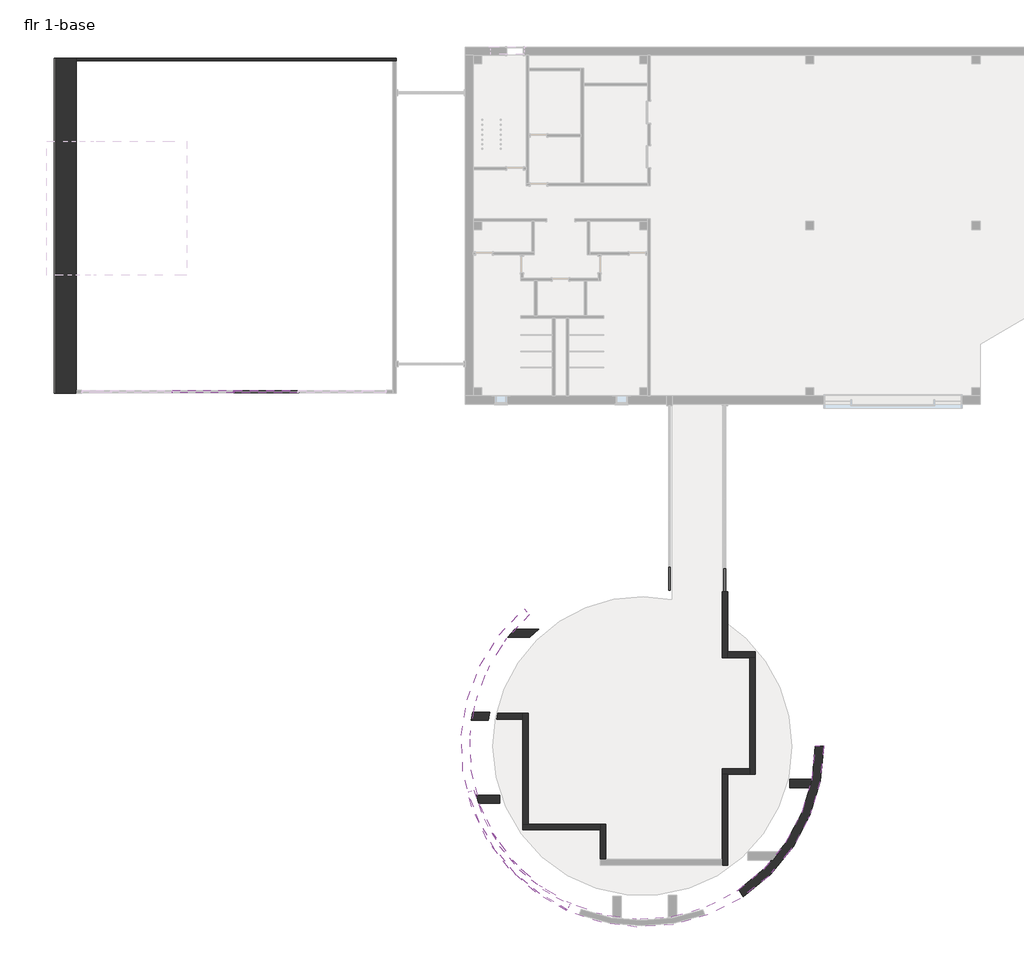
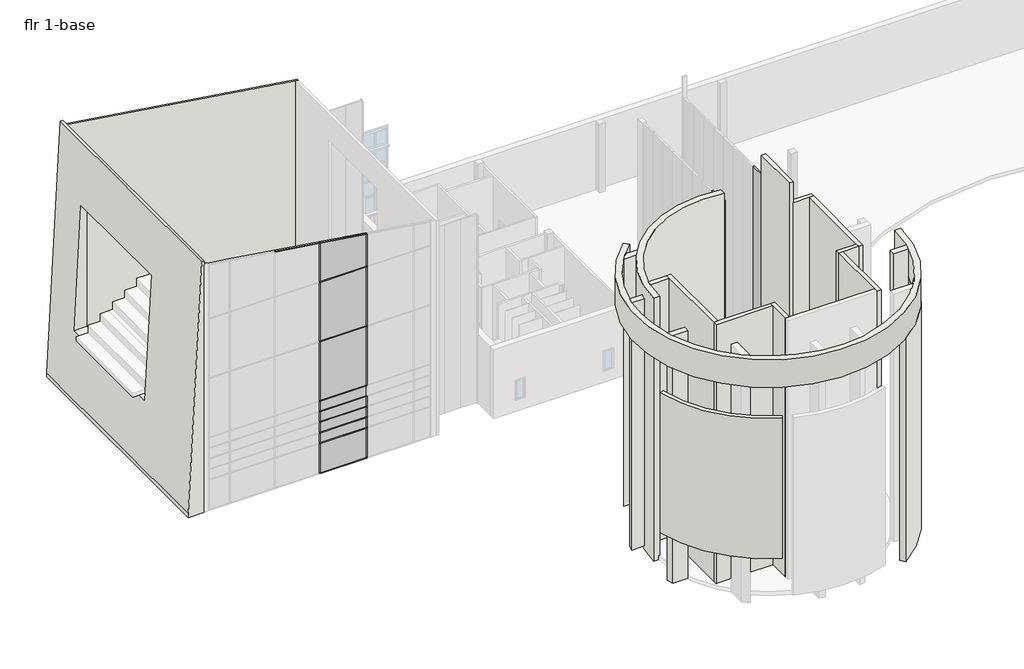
# One storey, part 2 of 5: 25 members, 20 walls, 10 plates.
"""IFC4 building model written with IfcOpenShell, lengths in millimetres."""

from ifc_helpers import new_model, si_unit, point, frame, frame_2d, origin, origin_with_axes, place, context, project, spatial, polyline, circle_curve, trimmed, segment, composite_curve, outline, extrude, faceted_brep, transform, mapped, element, save
from ifc_brep_helpers import plane_surface, cylinder_surface, revolved_surface, advanced_brep
from components import system_panel_system_panel_63a5b8b7, system_panel_system_panel_2d25a60f, system_panel_system_panel_86e66b7d, system_panel_system_panel_bb7de7ef, system_panel_system_panel_b373457a, system_panel_system_panel_3d694e2d

model = new_model("IFC4")

# Units and contexts
model_context = context("Model", 3, world=origin())
ifc_project = project(units=[si_unit("LENGTHUNIT", "METRE", prefix="MILLI")], contexts=[model_context])

# Site, building, storey
site = spatial("IfcSite", under=ifc_project)
building = spatial("IfcBuilding", under=site)
storey = spatial("IfcBuildingStorey", under=building, Name="flr 1-base", Elevation=0.0)

# Members
placement = place(None, origin())
element("IfcMember", 1, ObjectType="Rectangular Mullion : 2.5\" x 5\" rectangular", at=placement, inside=storey, context=model_context, shape_type="SweptSolid", body=[
    extrude(outline(polyline([(-128702.740902, 25250.9071029), (-128766.240902, 25250.9071029), (-128766.240902, 25377.9071029), (-128702.740902, 25377.9071029), (-128702.740902, 25250.9071029)])), frame((0.0, 0.0, -241.3), z_axis=(0.0, 0.0, 1.0), x_axis=(1.0, 0.0, 0.0)), (0.0, 0.0, 1.0), 2343.15),
])
element("IfcMember", 2, ObjectType="Rectangular Mullion : 2.5\" x 5\" rectangular", at=placement, inside=storey, context=model_context, shape_type="SweptSolid", body=[
    extrude(outline(polyline([(-125167.9255968, 25250.9071029), (-125231.4255968, 25250.9071029), (-125231.4255968, 25377.9071029), (-125167.9255968, 25377.9071029), (-125167.9255968, 25250.9071029)])), frame((0.0, 0.0, -241.3), z_axis=(0.0, 0.0, 1.0), x_axis=(1.0, 0.0, 0.0)), (0.0, 0.0, 1.0), 2343.15),
])
element("IfcMember", 3, ObjectType="Rectangular Mullion : 2.5\" x 5\" rectangular", at=placement, inside=storey, context=model_context, shape_type="SweptSolid", body=[
    extrude(outline(polyline([(-125199.6755968, 25377.9071029), (-125199.6755968, 25250.9071029), (-128734.490902, 25250.9071029), (-128734.490902, 25377.9071029), (-125199.6755968, 25377.9071029)])), frame((0.0, 0.0, 2101.85), z_axis=(0.0, 0.0, 1.0), x_axis=(1.0, 0.0, 0.0)), (0.0, 0.0, 1.0), 63.5),
])
element("IfcMember", 4, ObjectType="Rectangular Mullion : 2.5\" x 5\" rectangular", at=placement, inside=storey, context=model_context, shape_type="SweptSolid", body=[
    extrude(outline(polyline([(-125199.6755968, 25377.9071029), (-125199.6755968, 25250.9071029), (-128734.490902, 25250.9071029), (-128734.490902, 25377.9071029), (-125199.6755968, 25377.9071029)])), frame((0.0, 0.0, 5454.65), z_axis=(0.0, 0.0, 1.0), x_axis=(1.0, 0.0, 0.0)), (0.0, 0.0, 1.0), 63.5),
])
element("IfcMember", 5, ObjectType="Rectangular Mullion : 2.5\" x 5\" rectangular", at=placement, inside=storey, context=model_context, shape_type="SweptSolid", body=[
    extrude(outline(polyline([(-125199.6755968, 25377.9071029), (-125199.6755968, 25250.9071029), (-128734.490902, 25250.9071029), (-128734.490902, 25377.9071029), (-125199.6755968, 25377.9071029)])), frame((0.0, 0.0, 10179.05), z_axis=(0.0, 0.0, 1.0), x_axis=(1.0, 0.0, 0.0)), (0.0, 0.0, 1.0), 63.5),
])
element("IfcMember", 6, ObjectType="Rectangular Mullion : 2.5\" x 5\" rectangular", at=placement, inside=storey, context=model_context, shape_type="SweptSolid", body=[
    extrude(outline(polyline([(-125199.6755968, 25377.9071029), (-125199.6755968, 25250.9071029), (-128734.490902, 25250.9071029), (-128734.490902, 25377.9071029), (-125199.6755968, 25377.9071029)])), frame((0.0, 0.0, 14903.45), z_axis=(0.0, 0.0, 1.0), x_axis=(1.0, 0.0, 0.0)), (0.0, 0.0, 1.0), 63.5),
])
element("IfcMember", 7, ObjectType="Rectangular Mullion : 2.5\" x 5\" rectangular", at=placement, inside=storey, context=model_context, shape_type="SweptSolid", body=[
    extrude(outline(polyline([(-125199.6755968, 25377.9071029), (-125199.6755968, 25250.9071029), (-128734.490902, 25250.9071029), (-128734.490902, 25377.9071029), (-125199.6755968, 25377.9071029)])), frame((0.0, 0.0, 3778.25), z_axis=(0.0, 0.0, 1.0), x_axis=(1.0, 0.0, 0.0)), (0.0, 0.0, 1.0), 63.5),
])
element("IfcMember", 8, ObjectType="Rectangular Mullion : 2.5\" x 5\" rectangular", at=placement, inside=storey, context=model_context, shape_type="SweptSolid", body=[
    extrude(outline(polyline([(-125199.6755968, 25377.9071029), (-125199.6755968, 25250.9071029), (-128734.490902, 25250.9071029), (-128734.490902, 25377.9071029), (-125199.6755968, 25377.9071029)])), frame((0.0, 0.0, 2940.05), z_axis=(0.0, 0.0, 1.0), x_axis=(1.0, 0.0, 0.0)), (0.0, 0.0, 1.0), 63.5),
])
element("IfcMember", 9, ObjectType="Rectangular Mullion : 2.5\" x 5\" rectangular", at=placement, inside=storey, context=model_context, shape_type="SweptSolid", body=[
    extrude(outline(polyline([(-125199.6755968, 25377.9071029), (-125199.6755968, 25250.9071029), (-128734.490902, 25250.9071029), (-128734.490902, 25377.9071029), (-125199.6755968, 25377.9071029)])), frame((0.0, 0.0, 4616.45), z_axis=(0.0, 0.0, 1.0), x_axis=(1.0, 0.0, 0.0)), (0.0, 0.0, 1.0), 63.5),
])
element("IfcMember", 10, ObjectType="Rectangular Mullion : 2.5\" x 5\" rectangular", at=placement, inside=storey, context=model_context, shape_type="SweptSolid", body=[
    extrude(outline(polyline([(-128734.490902, 25250.9071029), (-128734.490902, 25377.9071029), (-125199.6755968, 25377.9071029), (-125199.6755968, 25250.9071029), (-128734.490902, 25250.9071029)])), frame((0.0, 0.0, -304.8), z_axis=(0.0, 0.0, 1.0), x_axis=(1.0, 0.0, 0.0)), (0.0, 0.0, 1.0), 63.5),
])
element("IfcMember", 11, ObjectType="Rectangular Mullion : 2.5\" x 5\" rectangular", at=placement, inside=storey, context=model_context, shape_type="SweptSolid", body=[
    extrude(outline(polyline([(0.0, -127.0), (0.0, 0.0), (3419.3712586, 0.0), (3419.3712586, -127.0), (0.0, -127.0)])), frame((-128743.6969646, 25250.9071029, 18019.1339606), z_axis=(0.14497736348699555, 0.0, 0.9894349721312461), x_axis=(-0.9894349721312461, 0.0, 0.14497736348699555)), (0.0, 0.0, 1.0), 63.5),
])
element("IfcMember", 12, ObjectType="Rectangular Mullion : 2.5\" x 5\" rectangular", at=placement, inside=storey, context=model_context, shape_type="SweptSolid", body=[
    extrude(outline(polyline([(0.0, -127.0), (0.0, 0.0), (3572.5594958, 0.0), (3572.5594958, -127.0), (0.0, -127.0)])), frame((-125208.8816594, 25250.9071029, 17501.193704), z_axis=(0.1449773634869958, 0.0, 0.989434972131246), x_axis=(-0.989434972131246, 0.0, 0.1449773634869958)), (0.0, 0.0, 1.0), 63.5),
])
element("IfcMember", 13, ObjectType="Rectangular Mullion : 2.5\" x 5\" rectangular", at=placement, inside=storey, context=model_context, shape_type="SweptSolid", body=[
    extrude(outline(polyline([(-128702.740902, 25250.9071029), (-128766.240902, 25250.9071029), (-128766.240902, 25377.9071029), (-128702.740902, 25377.9071029), (-128702.740902, 25250.9071029)])), frame((0.0, 0.0, 2165.35), z_axis=(0.0, 0.0, 1.0), x_axis=(1.0, 0.0, 0.0)), (0.0, 0.0, 1.0), 774.7),
])
element("IfcMember", 14, ObjectType="Rectangular Mullion : 2.5\" x 5\" rectangular", at=placement, inside=storey, context=model_context, shape_type="SweptSolid", body=[
    extrude(outline(polyline([(-128702.740902, 25250.9071029), (-128766.240902, 25250.9071029), (-128766.240902, 25377.9071029), (-128702.740902, 25377.9071029), (-128702.740902, 25250.9071029)])), frame((0.0, 0.0, 5518.15), z_axis=(0.0, 0.0, 1.0), x_axis=(1.0, 0.0, 0.0)), (0.0, 0.0, 1.0), 4660.9),
])
element("IfcMember", 15, ObjectType="Rectangular Mullion : 2.5\" x 5\" rectangular", at=placement, inside=storey, context=model_context, shape_type="SweptSolid", body=[
    extrude(outline(polyline([(-128702.740902, 25250.9071029), (-128766.240902, 25250.9071029), (-128766.240902, 25377.9071029), (-128702.740902, 25377.9071029), (-128702.740902, 25250.9071029)])), frame((0.0, 0.0, 10242.55), z_axis=(0.0, 0.0, 1.0), x_axis=(1.0, 0.0, 0.0)), (0.0, 0.0, 1.0), 4660.9),
])
element("IfcMember", 16, ObjectType="Rectangular Mullion : 2.5\" x 5\" rectangular", at=placement, inside=storey, context=model_context, shape_type="SweptSolid", body=[
    extrude(outline(polyline([(14966.95, -128766.240902), (14966.95, -128702.740902), (18013.1328568, -128702.740902), (18019.1339606, -128743.6969646), (18022.4372203, -128766.240902), (14966.95, -128766.240902)])), frame((0.0, 25250.9071029, 0.0), z_axis=(0.0, 1.0, 0.0), x_axis=(0.0, 0.0, 1.0)), (0.0, 0.0, 1.0), 127.0),
])
element("IfcMember", 17, ObjectType="Rectangular Mullion : 2.5\" x 5\" rectangular", at=placement, inside=storey, context=model_context, shape_type="SweptSolid", body=[
    extrude(outline(polyline([(-128702.740902, 25250.9071029), (-128766.240902, 25250.9071029), (-128766.240902, 25377.9071029), (-128702.740902, 25377.9071029), (-128702.740902, 25250.9071029)])), frame((0.0, 0.0, 3841.75), z_axis=(0.0, 0.0, 1.0), x_axis=(1.0, 0.0, 0.0)), (0.0, 0.0, 1.0), 774.7),
])
element("IfcMember", 18, ObjectType="Rectangular Mullion : 2.5\" x 5\" rectangular", at=placement, inside=storey, context=model_context, shape_type="SweptSolid", body=[
    extrude(outline(polyline([(-128702.740902, 25250.9071029), (-128766.240902, 25250.9071029), (-128766.240902, 25377.9071029), (-128702.740902, 25377.9071029), (-128702.740902, 25250.9071029)])), frame((0.0, 0.0, 3003.55), z_axis=(0.0, 0.0, 1.0), x_axis=(1.0, 0.0, 0.0)), (0.0, 0.0, 1.0), 774.7),
])
element("IfcMember", 19, ObjectType="Rectangular Mullion : 2.5\" x 5\" rectangular", at=placement, inside=storey, context=model_context, shape_type="SweptSolid", body=[
    extrude(outline(polyline([(-128702.740902, 25250.9071029), (-128766.240902, 25250.9071029), (-128766.240902, 25377.9071029), (-128702.740902, 25377.9071029), (-128702.740902, 25250.9071029)])), frame((0.0, 0.0, 4679.95), z_axis=(0.0, 0.0, 1.0), x_axis=(1.0, 0.0, 0.0)), (0.0, 0.0, 1.0), 774.7),
])
element("IfcMember", 20, ObjectType="Rectangular Mullion : 2.5\" x 5\" rectangular", at=placement, inside=storey, context=model_context, shape_type="SweptSolid", body=[
    extrude(outline(polyline([(-125167.9255968, 25250.9071029), (-125231.4255968, 25250.9071029), (-125231.4255968, 25377.9071029), (-125167.9255968, 25377.9071029), (-125167.9255968, 25250.9071029)])), frame((0.0, 0.0, 2165.35), z_axis=(0.0, 0.0, 1.0), x_axis=(1.0, 0.0, 0.0)), (0.0, 0.0, 1.0), 774.7),
])
element("IfcMember", 21, ObjectType="Rectangular Mullion : 2.5\" x 5\" rectangular", at=placement, inside=storey, context=model_context, shape_type="SweptSolid", body=[
    extrude(outline(polyline([(-125167.9255968, 25250.9071029), (-125231.4255968, 25250.9071029), (-125231.4255968, 25377.9071029), (-125167.9255968, 25377.9071029), (-125167.9255968, 25250.9071029)])), frame((0.0, 0.0, 5518.15), z_axis=(0.0, 0.0, 1.0), x_axis=(1.0, 0.0, 0.0)), (0.0, 0.0, 1.0), 4660.9),
])
element("IfcMember", 22, ObjectType="Rectangular Mullion : 2.5\" x 5\" rectangular", at=placement, inside=storey, context=model_context, shape_type="SweptSolid", body=[
    extrude(outline(polyline([(-125167.9255968, 25250.9071029), (-125231.4255968, 25250.9071029), (-125231.4255968, 25377.9071029), (-125167.9255968, 25377.9071029), (-125167.9255968, 25250.9071029)])), frame((0.0, 0.0, 10242.55), z_axis=(0.0, 0.0, 1.0), x_axis=(1.0, 0.0, 0.0)), (0.0, 0.0, 1.0), 4660.9),
])
element("IfcMember", 23, ObjectType="Rectangular Mullion : 2.5\" x 5\" rectangular", at=placement, inside=storey, context=model_context, shape_type="SweptSolid", body=[
    extrude(outline(polyline([(14966.95, -125231.4255968), (14966.95, -125167.9255968), (17495.1926002, -125167.9255968), (17501.193704, -125208.8816594), (17504.4969636, -125231.4255968), (14966.95, -125231.4255968)])), frame((0.0, 25250.9071029, 0.0), z_axis=(0.0, 1.0, 0.0), x_axis=(0.0, 0.0, 1.0)), (0.0, 0.0, 1.0), 127.0),
])
element("IfcMember", 24, ObjectType="Rectangular Mullion : 2.5\" x 5\" rectangular", at=placement, inside=storey, context=model_context, shape_type="SweptSolid", body=[
    extrude(outline(polyline([(-125167.9255968, 25250.9071029), (-125231.4255968, 25250.9071029), (-125231.4255968, 25377.9071029), (-125167.9255968, 25377.9071029), (-125167.9255968, 25250.9071029)])), frame((0.0, 0.0, 3841.75), z_axis=(0.0, 0.0, 1.0), x_axis=(1.0, 0.0, 0.0)), (0.0, 0.0, 1.0), 774.7),
])
element("IfcMember", 25, ObjectType="Rectangular Mullion : 2.5\" x 5\" rectangular", at=placement, inside=storey, context=model_context, shape_type="SweptSolid", body=[
    extrude(outline(polyline([(-125167.9255968, 25250.9071029), (-125231.4255968, 25250.9071029), (-125231.4255968, 25377.9071029), (-125167.9255968, 25377.9071029), (-125167.9255968, 25250.9071029)])), frame((0.0, 0.0, 3003.55), z_axis=(0.0, 0.0, 1.0), x_axis=(1.0, 0.0, 0.0)), (0.0, 0.0, 1.0), 774.7),
])

# Plates
system_panel_system_panel_shape = system_panel_system_panel_63a5b8b7(model_context)
element("IfcPlate", 26, ObjectType="System Panel : System Panel", at=placement, inside=storey, context=model_context, shape_type="MappedRepresentation", body=[
    mapped(system_panel_system_panel_shape, transform((-104757.2324925, 15019.914875, -304.8), x_axis=(0.0, 1.0, 0.0), y_axis=(-1.0, 0.0, 0.0), z_axis=(0.0, 0.0, 1.0))),
])
system_panel_system_panel_2_shape = system_panel_system_panel_2d25a60f(model_context)
element("IfcPlate", 27, ObjectType="System Panel : System Panel", at=placement, inside=storey, context=model_context, shape_type="MappedRepresentation", body=[
    mapped(system_panel_system_panel_2_shape, transform((-101709.2324925, 14932.1571029, -304.8), x_axis=(0.0, 1.0, 0.0), y_axis=(-1.0, 0.0, 0.0), z_axis=(0.0, 0.0, 1.0))),
])
system_panel_system_panel_3_shape = system_panel_system_panel_86e66b7d(model_context)
element("IfcPlate", 28, ObjectType="System Panel : System Panel", at=placement, inside=storey, context=model_context, shape_type="MappedRepresentation", body=[
    mapped(system_panel_system_panel_3_shape, transform((-126967.0832494, 25314.4071029, -241.3), x_axis=(1.0, 0.0, 0.0), y_axis=(0.0, 1.0, 0.0), z_axis=(0.0, 0.0, 1.0))),
])
system_panel_system_panel_4_shape = system_panel_system_panel_bb7de7ef(model_context)
element("IfcPlate", 29, ObjectType="System Panel : System Panel", at=placement, inside=storey, context=model_context, shape_type="MappedRepresentation", body=[
    mapped(system_panel_system_panel_4_shape, transform((-126967.0832494, 25314.4071029, 2165.35), x_axis=(1.0, 0.0, 0.0), y_axis=(0.0, 1.0, 0.0), z_axis=(0.0, 0.0, 1.0))),
])
element("IfcPlate", 30, ObjectType="System Panel : System Panel", at=placement, inside=storey, context=model_context, shape_type="MappedRepresentation", body=[
    mapped(system_panel_system_panel_4_shape, transform((-126967.0832494, 25314.4071029, 3841.75), x_axis=(1.0, 0.0, 0.0), y_axis=(0.0, 1.0, 0.0), z_axis=(0.0, 0.0, 1.0))),
])
element("IfcPlate", 31, ObjectType="System Panel : System Panel", at=placement, inside=storey, context=model_context, shape_type="MappedRepresentation", body=[
    mapped(system_panel_system_panel_4_shape, transform((-126967.0832494, 25314.4071029, 3003.55), x_axis=(1.0, 0.0, 0.0), y_axis=(0.0, 1.0, 0.0), z_axis=(0.0, 0.0, 1.0))),
])
element("IfcPlate", 32, ObjectType="System Panel : System Panel", at=placement, inside=storey, context=model_context, shape_type="MappedRepresentation", body=[
    mapped(system_panel_system_panel_4_shape, transform((-126967.0832494, 25314.4071029, 4679.95), x_axis=(1.0, 0.0, 0.0), y_axis=(0.0, 1.0, 0.0), z_axis=(0.0, 0.0, 1.0))),
])
system_panel_system_panel_5_shape = system_panel_system_panel_b373457a(model_context)
element("IfcPlate", 33, ObjectType="System Panel : System Panel", at=placement, inside=storey, context=model_context, shape_type="MappedRepresentation", body=[
    mapped(system_panel_system_panel_5_shape, transform((-126967.0832494, 25314.4071029, 5518.15), x_axis=(1.0, 0.0, 0.0), y_axis=(0.0, 1.0, 0.0), z_axis=(0.0, 0.0, 1.0))),
])
element("IfcPlate", 34, ObjectType="System Panel : System Panel", at=placement, inside=storey, context=model_context, shape_type="MappedRepresentation", body=[
    mapped(system_panel_system_panel_5_shape, transform((-126967.0832494, 25314.4071029, 10242.55), x_axis=(1.0, 0.0, 0.0), y_axis=(0.0, 1.0, 0.0), z_axis=(0.0, 0.0, 1.0))),
])
system_panel_system_panel_6_shape = system_panel_system_panel_3d694e2d(model_context)
element("IfcPlate", 35, ObjectType="System Panel : System Panel", at=placement, inside=storey, context=model_context, shape_type="MappedRepresentation", body=[
    mapped(system_panel_system_panel_6_shape, transform((-126967.0832494, 25314.4071029, 14966.95), x_axis=(1.0, 0.0, 0.0), y_axis=(0.0, 1.0, 0.0), z_axis=(0.0, 0.0, 1.0))),
])

# Walls
element("IfcWall", 36, ObjectType="4'", at=placement, inside=storey, context=model_context, shape_type="Brep", body=[
    faceted_brep([(-138640.490902, 43678.6071029, -304.8), (-138640.490902, 25238.2071029, -304.8), (-138640.490902, 25238.2071029, 0.0), (-138640.490902, 43678.6071029, 0.0), (-137421.290902, 25238.2071029, -304.8), (-137421.290902, 25390.6071029, -304.8), (-137421.290902, 43526.2071029, -304.8), (-137421.290902, 43678.6071029, -304.8), (-137421.290902, 43678.6071029, 19354.8), (-137421.290902, 43678.6071029, 19659.6), (-137421.290902, 25238.2071029, 19659.6), (-137421.290902, 25238.2071029, 19354.8), (-137421.290902, 40551.2321029, 5181.6), (-137421.290902, 31420.1262968, 5181.6), (-137421.290902, 31420.1262968, 14935.2), (-137421.290902, 40551.2321029, 14935.2), (-137610.1749244, 43678.6071029, 19659.6), (-137610.1749244, 25238.2071029, 19659.6), (-138368.9347529, 40551.2321029, 5181.6), (-138368.9347529, 31420.1262968, 5181.6), (-137857.7702369, 31420.1262968, 14935.2), (-137857.7702369, 40551.2321029, 14935.2)], [[[0, 1, 2, 3]], [[4, 5, 6, 7, 8, 9, 10, 11], [12, 13, 14, 15]], [[1, 0, 7, 6, 5, 4]], [[10, 9, 16, 17]], [[13, 12, 18, 19]], [[15, 14, 20, 21]], [[9, 8, 7, 0, 3, 16]], [[1, 4, 11, 10, 17, 2]], [[12, 15, 21, 18]], [[14, 13, 19, 20]], [[3, 2, 17, 16], [19, 18, 21, 20]]]),
])
element("IfcWall", 37, ObjectType="Generic - 6\"", at=placement, inside=storey, context=model_context, shape_type="Brep", body=[
    faceted_brep([(-119793.690902, 43678.6071029, -304.8), (-137421.290902, 43678.6071029, -304.8), (-137421.290902, 43678.6071029, 19354.8), (-119793.690902, 43678.6071029, 16771.9087089), (-119793.690902, 43526.2071029, -304.8), (-119793.690902, 43526.2071029, 16771.9087089), (-119996.890902, 43526.2071029, 16801.6826719), (-137421.290902, 43526.2071029, 19354.8), (-137421.290902, 43526.2071029, -304.8), (-119996.890902, 43526.2071029, -304.8)], [[[0, 1, 2, 3]], [[4, 5, 6, 7, 8, 9]], [[1, 0, 4, 9, 8]], [[0, 3, 5, 4]], [[2, 1, 8, 7]], [[3, 2, 7, 6, 5]]]),
])
element("IfcWall", 38, ObjectType="a_Mtl panel on Mtl stud", at=placement, inside=storey, context=model_context, shape_type="SweptSolid", body=[
    extrude(outline(composite_curve([segment(polyline([(-104601.6574925, 14384.4153931), (-104601.6574925, 14251.0186307)]), True, "CONTINUOUS"), segment(trimmed(circle_curve(frame_2d((-106255.490902, 5807.2071029)), 8604.25), [point((-104601.6574925, 14251.0186307))], [point((-104912.8074925, 14306.0493373))], True, "CARTESIAN"), True, "CONTINUOUS"), segment(polyline([(-104912.8074925, 14306.0493373), (-104912.8074925, 14384.4153931), (-104601.6574925, 14384.4153931)]), True, "CONTINUOUS")], self_intersect=False)), frame((0.0, 0.0, -304.8), z_axis=(0.0, 0.0, 1.0), x_axis=(1.0, 0.0, 0.0)), (0.0, 0.0, 1.0), 19964.4),
])
element("IfcWall", 39, ObjectType="a_Mtl panel on Mtl stud", at=placement, inside=storey, context=model_context, shape_type="Brep", body=[
    faceted_brep([(-101553.6574925, 10680.8321029, -304.8), (-101553.6574925, 14290.8071029, -304.8), (-101553.6574925, 14290.8071029, 20574.0), (-101553.6574925, 14290.8071029, 22250.4), (-101553.6574925, 10680.8321029, 22250.4), (-101553.6574925, 10680.8321029, 20574.0), (-101553.6574925, 10680.8321029, 0.0), (-101864.8074925, 10680.8321029, -304.8), (-101864.8074925, 10680.8321029, 19659.6), (-101864.8074925, 10680.8321029, 22250.4), (-101864.8074925, 14290.8071029, 22250.4), (-101864.8074925, 14290.8071029, 20574.0), (-101864.8074925, 14290.8071029, -304.8)], [[[0, 1, 2, 3, 4, 5, 6]], [[7, 8, 9, 10, 11, 12]], [[1, 0, 7, 12]], [[3, 2, 1, 12, 11, 10]], [[4, 3, 10, 9]], [[0, 6, 5, 4, 9, 8, 7]]]),
])
element("IfcWall", 40, ObjectType="a_Mtl panel on Mtl stud", at=placement, inside=storey, context=model_context, shape_type="Brep", body=[
    faceted_brep([(-101553.6574925, 10680.8321029, 0.0), (-100340.8074925, 10680.8321029, 0.0), (-100029.6574925, 10680.8321029, 0.0), (-100029.6574925, 10680.8321029, 20574.0), (-100340.8074925, 10680.8321029, 20574.0), (-101553.6574925, 10680.8321029, 20574.0), (-101553.6574925, 10991.9821029, 0.0), (-101553.6574925, 10991.9821029, 20574.0), (-100029.6574925, 10991.9821029, 20574.0), (-100029.6574925, 10991.9821029, 0.0)], [[[0, 1, 2, 3, 4, 5]], [[6, 7, 8, 9]], [[2, 1, 0, 6, 9]], [[5, 4, 3, 8, 7]], [[3, 2, 9, 8]], [[0, 5, 7, 6]]]),
])
element("IfcWall", 41, ObjectType="a_Mtl panel on Mtl stud", at=placement, inside=storey, context=model_context, shape_type="Brep", body=[
    faceted_brep([(-100340.8074925, 10680.8321029, 0.0), (-100340.8074925, 4552.4219438, 0.0), (-100340.8074925, 4241.2719438, 0.0), (-100340.8074925, 4241.2719438, 20574.0), (-100340.8074925, 4552.4219438, 20574.0), (-100340.8074925, 10680.8321029, 20574.0), (-100029.6574925, 10680.8321029, 0.0), (-100029.6574925, 10680.8321029, 20574.0), (-100029.6574925, 4241.2719438, 20574.0), (-100029.6574925, 4241.2719438, 0.0)], [[[0, 1, 2, 3, 4, 5]], [[6, 7, 8, 9]], [[2, 1, 0, 6, 9]], [[5, 4, 3, 8, 7]], [[3, 2, 9, 8]], [[0, 5, 7, 6]]]),
])
element("IfcWall", 42, ObjectType="a_Mtl panel on Mtl stud", at=placement, inside=storey, context=model_context, shape_type="Brep", body=[
    faceted_brep([(-100340.8074925, 4552.4219438, 0.0), (-101864.8074925, 4552.4219438, 0.0), (-101864.8074925, 4552.4219438, 20574.0), (-100340.8074925, 4552.4219438, 20574.0), (-100340.8074925, 4241.2719438, 0.0), (-100340.8074925, 4241.2719438, 20574.0), (-101553.6574925, 4241.2719438, 20574.0), (-101864.8074925, 4241.2719438, 20574.0), (-101864.8074925, 4241.2719438, 0.0), (-101553.6574925, 4241.2719438, 0.0)], [[[0, 1, 2, 3]], [[4, 5, 6, 7, 8, 9]], [[1, 0, 4, 9, 8]], [[3, 2, 7, 6, 5]], [[2, 1, 8, 7]], [[0, 3, 5, 4]]]),
])
element("IfcWall", 43, ObjectType="a_Mtl panel on Mtl stud", at=placement, inside=storey, context=model_context, shape_type="Brep", body=[
    faceted_brep([(-101864.8074925, 4241.2719438, 0.0), (-101864.8074925, -438.0178971, 0.0), (-101864.8074925, -749.1678971, 0.0), (-101864.8074925, -749.1678971, 20574.0), (-101864.8074925, -438.0178971, 20574.0), (-101864.8074925, 4241.2719438, 20574.0), (-101553.6574925, 4241.2719438, 0.0), (-101553.6574925, 4241.2719438, 20574.0), (-101553.6574925, -749.1678971, 20574.0), (-101553.6574925, -749.1678971, 0.0)], [[[0, 1, 2, 3, 4, 5]], [[6, 7, 8, 9]], [[2, 1, 0, 6, 9]], [[5, 4, 3, 8, 7]], [[3, 2, 9, 8]], [[0, 5, 7, 6]]]),
])
element("IfcWall", 44, ObjectType="a_Mtl panel on Mtl stud", at=placement, inside=storey, context=model_context, shape_type="Brep", body=[
    faceted_brep([(-108259.2574925, -438.0178971, 0.0), (-108259.2574925, 1504.4219438, 0.0), (-108259.2574925, 1504.4219438, 20574.0), (-108259.2574925, -438.0178971, 20574.0), (-108570.4074925, -438.0178971, 0.0), (-108570.4074925, -438.0178971, 20574.0), (-108570.4074925, 1193.2719438, 20574.0), (-108570.4074925, 1504.4219438, 20574.0), (-108570.4074925, 1504.4219438, 0.0), (-108570.4074925, 1193.2719438, 0.0)], [[[0, 1, 2, 3]], [[4, 5, 6, 7, 8, 9]], [[1, 0, 4, 9, 8]], [[3, 2, 7, 6, 5]], [[2, 1, 8, 7]], [[0, 3, 5, 4]]]),
])
element("IfcWall", 45, ObjectType="a_Mtl panel on Mtl stud", at=placement, inside=storey, context=model_context, shape_type="Brep", body=[
    faceted_brep([(-108570.4074925, 1504.4219438, 0.0), (-112526.4574925, 1504.4219438, 0.0), (-112837.6074925, 1504.4219438, 0.0), (-112837.6074925, 1504.4219438, 20574.0), (-112526.4574925, 1504.4219438, 20574.0), (-108570.4074925, 1504.4219438, 20574.0), (-108570.4074925, 1193.2719438, 0.0), (-108570.4074925, 1193.2719438, 20574.0), (-112837.6074925, 1193.2719438, 20574.0), (-112837.6074925, 1193.2719438, 0.0)], [[[0, 1, 2, 3, 4, 5]], [[6, 7, 8, 9]], [[2, 1, 0, 6, 9]], [[5, 4, 3, 8, 7]], [[3, 2, 9, 8]], [[0, 5, 7, 6]]]),
])
element("IfcWall", 46, ObjectType="a_Mtl panel on Mtl stud", at=placement, inside=storey, context=model_context, shape_type="Brep", body=[
    faceted_brep([(-112526.4574925, 1504.4219438, 0.0), (-112526.4574925, 7600.4219438, 0.0), (-112526.4574925, 7600.4219438, 20574.0), (-112526.4574925, 1504.4219438, 20574.0), (-112837.6074925, 1504.4219438, 0.0), (-112837.6074925, 1504.4219438, 20574.0), (-112837.6074925, 7289.2719438, 20574.0), (-112837.6074925, 7600.4219438, 20574.0), (-112837.6074925, 7600.4219438, 0.0), (-112837.6074925, 7289.2719438, 0.0)], [[[0, 1, 2, 3]], [[4, 5, 6, 7, 8, 9]], [[1, 0, 4, 9, 8]], [[3, 2, 7, 6, 5]], [[2, 1, 8, 7]], [[0, 3, 5, 4]]]),
])
element("IfcWall", 47, ObjectType="a_Mtl panel on Mtl stud", at=placement, inside=storey, context=model_context, shape_type="SweptSolid", body=[
    extrude(outline(composite_curve([segment(polyline([(-114215.7610354, 7600.4219438), (-112837.6074925, 7600.4219438), (-112837.6074925, 7289.2719438), (-114279.5175639, 7289.2719438)]), True, "CONTINUOUS"), segment(trimmed(circle_curve(frame_2d((-106255.490902, 5807.2071029)), 8159.75), [point((-114279.5175639, 7289.2719438))], [point((-114215.7610354, 7600.4219438))], False, "CARTESIAN"), True, "CONTINUOUS")], self_intersect=False)), origin_with_axes(), (0.0, 0.0, 1.0), 20574.0),
])
element("IfcWall", 48, ObjectType="a_Stone on CMU", at=placement, inside=storey, context=model_context, shape_type="SweptSolid", body=[
    extrude(outline(composite_curve([segment(polyline([(-113285.1523068, 12243.8594438), (-111965.3617154, 12243.8594438)]), True, "CONTINUOUS"), segment(trimmed(circle_curve(frame_2d((-106255.490902, 5807.2071029)), 8604.25), [point((-111965.3617154, 12243.8594438))], [point((-112439.4449901, 11789.8344438))], True, "CARTESIAN"), True, "CONTINUOUS"), segment(polyline([(-112439.4449901, 11789.8344438), (-113675.3832815, 11789.8344438)]), True, "CONTINUOUS"), segment(trimmed(circle_curve(frame_2d((-106255.490902, 5807.2071029)), 9531.35), [point((-113675.3832815, 11789.8344438))], [point((-113285.1523068, 12243.8594438))], False, "CARTESIAN"), True, "CONTINUOUS")], self_intersect=False)), origin_with_axes(), (0.0, 0.0, 1.0), 19659.6),
])
element("IfcWall", 49, ObjectType="a_Stone on CMU", at=placement, inside=storey, context=model_context, shape_type="SweptSolid", body=[
    extrude(outline(composite_curve([segment(polyline([(-115394.2491041, 3099.8594438), (-114107.080197, 3099.8594438), (-114107.080197, 2645.8344438), (-115247.2847015, 2645.8344438)]), True, "CONTINUOUS"), segment(trimmed(circle_curve(frame_2d((-106255.490902, 5807.2071029)), 9531.35), [point((-115247.2847015, 2645.8344438))], [point((-115394.2491041, 3099.8594438))], False, "CARTESIAN"), True, "CONTINUOUS")], self_intersect=False)), origin_with_axes(), (0.0, 0.0, 1.0), 19659.6),
])
element("IfcWall", 50, ObjectType="a_Stone on CMU", at=placement, inside=storey, context=model_context, shape_type="SweptSolid", body=[
    extrude(outline(composite_curve([segment(polyline([(-115602.6671853, 7671.8594438), (-114655.264096, 7671.8594438)]), True, "CONTINUOUS"), segment(trimmed(circle_curve(frame_2d((-106255.490902, 5807.2071029)), 8604.25), [point((-114655.264096, 7671.8594438))], [point((-114743.32034, 7217.8344438))], True, "CARTESIAN"), True, "CONTINUOUS"), segment(polyline([(-114743.32034, 7217.8344438), (-115681.8774487, 7217.8344438)]), True, "CONTINUOUS"), segment(trimmed(circle_curve(frame_2d((-106255.490902, 5807.2071029)), 9531.35), [point((-115681.8774487, 7217.8344438))], [point((-115602.6671853, 7671.8594438))], False, "CARTESIAN"), True, "CONTINUOUS")], self_intersect=False)), origin_with_axes(), (0.0, 0.0, 1.0), 19659.6),
])
element("IfcWall", 51, ObjectType="a_Stone on CMU", at=placement, inside=storey, context=model_context, shape_type="SweptSolid", body=[
    extrude(outline(composite_curve([segment(polyline([(-97001.864262, 3523.1259244), (-98129.8283166, 3523.1259244), (-98129.8283166, 3977.1509244), (-96901.4796124, 3977.1509244)]), True, "CONTINUOUS"), segment(trimmed(circle_curve(frame_2d((-106255.490902, 5807.2071029)), 9531.35), [point((-96901.4796124, 3977.1509244))], [point((-97001.864262, 3523.1259244))], False, "CARTESIAN"), True, "CONTINUOUS")], self_intersect=False)), origin_with_axes(), (0.0, 0.0, 1.0), 19659.6),
])
element("IfcWall", 52, ObjectType="a_ext-dbl-panel 24x24", at=placement, inside=storey, context=model_context, shape_type="AdvancedBrep", body=[
    advanced_brep(
    [(-114415.240902, 5807.2071029, 20574.0), (-114279.5175639, 7289.2719438, 20574.0), (-114215.7610354, 7600.4219438, 20574.0), (-104912.8074925, 13855.7300311, 20574.0), (-104912.8074925, 14306.0493373, 20574.0), (-114859.740902, 5807.2071029, 20574.0), (-114415.240902, 5807.2071029, -304.8), (-114859.740902, 5807.2071029, -304.8), (-104912.8074925, 14306.0493373, -304.8), (-104912.8074925, 13855.7300311, -304.8), (-104912.8074925, 14306.0493373, 19659.6)],
    [
        (0, 1, circle_curve(frame((-106255.490902, 5807.2071029, 20574.0), z_axis=(0.0, 0.0, -1.0), x_axis=(1.0, 0.0, 0.0)), 8159.75)),
        (1, 2, circle_curve(frame((-106255.490902, 5807.2071029, 20574.0), z_axis=(0.0, 0.0, -1.0), x_axis=(1.0, 0.0, 0.0)), 8159.75)),
        (2, 3, circle_curve(frame((-106255.490902, 5807.2071029, 20574.0), z_axis=(0.0, 0.0, -1.0), x_axis=(1.0, 0.0, 0.0)), 8159.75)),
        (3, 4),
        (4, 5, circle_curve(frame((-106255.490902, 5807.2071029, 20574.0), z_axis=(0.0, 0.0, 1.0), x_axis=(1.0, 0.0, 0.0)), 8604.25)),
        (5, 0),
        (6, 7),
        (7, 8, circle_curve(frame((-106255.490902, 5807.2071029, -304.8), z_axis=(0.0, 0.0, -1.0), x_axis=(1.0, 0.0, 0.0)), 8604.25)),
        (8, 9),
        (9, 6, circle_curve(frame((-106255.490902, 5807.2071029, -304.8), z_axis=(0.0, 0.0, 1.0), x_axis=(1.0, 0.0, 0.0)), 8159.75)),
        (0, 6),
        (9, 3),
        (4, 10),
        (10, 8),
        (7, 5),
    ],
    [
        plane_surface(frame((-98095.740902, 5807.2071029, 20574.0), z_axis=(0.0, 0.0, 1.0), x_axis=(0.0, -1.0, 0.0))),
        plane_surface(frame((-98095.740902, 5807.2071029, -304.8), z_axis=(0.0, 0.0, -1.0), x_axis=(0.0, 1.0, 0.0))),
        revolved_surface(polyline([(-98095.740902, 5807.2071029, -304.8), (-98095.740902, 5807.2071029, 20574.0)]), (-106255.490902, 5807.2071029, -304.8), (0.0, 0.0, -1.0)),
        cylinder_surface(frame((-106255.490902, 5807.2071029, -304.8), z_axis=(0.0, 0.0, 1.0), x_axis=(1.0, 0.0, 0.0)), 8604.25),
        plane_surface(frame((-114859.740902, 5807.2071029, 20574.0), z_axis=(0.0, -1.0, 0.0), x_axis=(0.0, 0.0, -1.0))),
        plane_surface(frame((-104912.8074925, 14054.2153931, 19659.6), z_axis=(1.0, 0.0, 0.0), x_axis=(0.0, -1.0, 0.0))),
    ],
    [
        (0, [[1, 2, 3, 4, 5, 6]]),
        (1, [[7, 8, 9, 10]]),
        (2, [[-3, -2, -1, 11, -10, 12]]),
        (3, [[-5, 13, 14, -8, 15]]),
        (4, [[-6, -15, -7, -11]]),
        (5, [[-4, -12, -9, -14, -13]]),
    ],
),
])
element("IfcWall", 53, ObjectType="a_ext-dbl-panel 24x24", at=placement, inside=storey, context=model_context, shape_type="AdvancedBrep", body=[
    advanced_brep(
    [(-96724.140902, 5807.2071029, 19659.6), (-104373.3397477, -3536.4613338, 19659.6), (-104827.3647477, -3616.5441942, 19659.6), (-107421.3397477, -3652.5724554, 19659.6), (-107875.3647477, -3585.4837547, 19659.6), (-111993.3397477, -1803.5565543, 19659.6), (-112447.3647477, -1438.9871465, 19659.6), (-115247.2847015, 2645.8344438, 19659.6), (-115394.2491041, 3099.8594438, 19659.6), (-115681.8774487, 7217.8344438, 19659.6), (-115602.6671853, 7671.8594438, 19659.6), (-113675.3832815, 11789.8344438, 19659.6), (-113285.1523068, 12243.8594438, 19659.6), (-112478.1902012, 13026.9471436, 19659.6), (-112768.3893691, 13363.643881, 19659.6), (-96279.640902, 5807.2071029, 19659.6), (-96724.140902, 5807.2071029, 17458.9050402), (-96279.640902, 5807.2071029, 17458.9050402), (-112768.3893691, 13363.643881, 17458.9050402), (-112478.1902012, 13026.9471436, 17458.9050402)],
    [
        (0, 1, circle_curve(frame((-106255.490902, 5807.2071029, 19659.6), z_axis=(0.0, 0.0, -1.0), x_axis=(1.0, 0.0, 0.0)), 9531.35)),
        (1, 2, circle_curve(frame((-106255.490902, 5807.2071029, 19659.6), z_axis=(0.0, 0.0, -1.0), x_axis=(1.0, 0.0, 0.0)), 9531.35)),
        (2, 3, circle_curve(frame((-106255.490902, 5807.2071029, 19659.6), z_axis=(0.0, 0.0, -1.0), x_axis=(1.0, 0.0, 0.0)), 9531.35)),
        (3, 4, circle_curve(frame((-106255.490902, 5807.2071029, 19659.6), z_axis=(0.0, 0.0, -1.0), x_axis=(1.0, 0.0, 0.0)), 9531.35)),
        (4, 5, circle_curve(frame((-106255.490902, 5807.2071029, 19659.6), z_axis=(0.0, 0.0, -1.0), x_axis=(1.0, 0.0, 0.0)), 9531.35)),
        (5, 6, circle_curve(frame((-106255.490902, 5807.2071029, 19659.6), z_axis=(0.0, 0.0, -1.0), x_axis=(1.0, 0.0, 0.0)), 9531.35)),
        (6, 7, circle_curve(frame((-106255.490902, 5807.2071029, 19659.6), z_axis=(0.0, 0.0, -1.0), x_axis=(1.0, 0.0, 0.0)), 9531.35)),
        (7, 8, circle_curve(frame((-106255.490902, 5807.2071029, 19659.6), z_axis=(0.0, 0.0, -1.0), x_axis=(1.0, 0.0, 0.0)), 9531.35)),
        (8, 9, circle_curve(frame((-106255.490902, 5807.2071029, 19659.6), z_axis=(0.0, 0.0, -1.0), x_axis=(1.0, 0.0, 0.0)), 9531.35)),
        (9, 10, circle_curve(frame((-106255.490902, 5807.2071029, 19659.6), z_axis=(0.0, 0.0, -1.0), x_axis=(1.0, 0.0, 0.0)), 9531.35)),
        (10, 11, circle_curve(frame((-106255.490902, 5807.2071029, 19659.6), z_axis=(0.0, 0.0, -1.0), x_axis=(1.0, 0.0, 0.0)), 9531.35)),
        (11, 12, circle_curve(frame((-106255.490902, 5807.2071029, 19659.6), z_axis=(0.0, 0.0, -1.0), x_axis=(1.0, 0.0, 0.0)), 9531.35)),
        (12, 13, circle_curve(frame((-106255.490902, 5807.2071029, 19659.6), z_axis=(0.0, 0.0, -1.0), x_axis=(1.0, 0.0, 0.0)), 9531.35)),
        (13, 14),
        (14, 15, circle_curve(frame((-106255.490902, 5807.2071029, 19659.6), z_axis=(0.0, 0.0, 1.0), x_axis=(1.0, 0.0, 0.0)), 9975.85)),
        (15, 0),
        (16, 17),
        (17, 18, circle_curve(frame((-106255.490902, 5807.2071029, 17458.9050402), z_axis=(0.0, 0.0, -1.0), x_axis=(1.0, 0.0, 0.0)), 9975.85)),
        (18, 19),
        (19, 16, circle_curve(frame((-106255.490902, 5807.2071029, 17458.9050402), z_axis=(0.0, 0.0, 1.0), x_axis=(1.0, 0.0, 0.0)), 9531.35)),
        (0, 16),
        (19, 13),
        (18, 14),
        (17, 15),
    ],
    [
        plane_surface(frame((-96724.140902, 5807.2071029, 19659.6), z_axis=(0.0, 0.0, 1.0), x_axis=(0.0, -1.0, 0.0))),
        plane_surface(frame((-96724.140902, 5807.2071029, 17458.9050402), z_axis=(0.0, 0.0, -1.0), x_axis=(0.0, 1.0, 0.0))),
        revolved_surface(polyline([(-96724.140902, 5807.2071029, 17458.9050402), (-96724.140902, 5807.2071029, 19659.6)]), (-106255.490902, 5807.2071029, 17458.9050402), (0.0, 0.0, -1.0)),
        plane_surface(frame((-112478.1902012, 13026.9471436, 19659.6), z_axis=(0.7574729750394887, 0.6528665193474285, 0.0), x_axis=(0.0, 0.0, -1.0))),
        cylinder_surface(frame((-106255.490902, 5807.2071029, 17458.9050402), z_axis=(0.0, 0.0, 1.0), x_axis=(1.0, 0.0, 0.0)), 9975.85),
        plane_surface(frame((-96279.640902, 5807.2071029, 19659.6), z_axis=(0.0, 1.0, 0.0), x_axis=(0.0, 0.0, -1.0))),
    ],
    [
        (0, [[1, 2, 3, 4, 5, 6, 7, 8, 9, 10, 11, 12, 13, 14, 15, 16]]),
        (1, [[17, 18, 19, 20]]),
        (2, [[-13, -12, -11, -10, -9, -8, -7, -6, -5, -4, -3, -2, -1, 21, -20, 22]]),
        (3, [[-14, -22, -19, 23]]),
        (4, [[-15, -23, -18, 24]]),
        (5, [[-16, -24, -17, -21]]),
    ],
),
])
element("IfcWall", 54, ObjectType="a_ext-dbl-panel 24x24", at=placement, inside=storey, context=model_context, shape_type="SweptSolid", body=[
    extrude(outline(composite_curve([segment(polyline([(-96724.140902, 5807.2071029), (-96279.640902, 5807.2071029)]), True, "CONTINUOUS"), segment(trimmed(circle_curve(frame_2d((-106255.490902, 5807.2071029)), 9975.85), [point((-96279.640902, 5807.2071029))], [point((-100698.8095272, -2477.7717939))], False, "CARTESIAN"), True, "CONTINUOUS"), segment(polyline([(-100698.8095272, -2477.7717939), (-100946.40195, -2108.6129634)]), True, "CONTINUOUS"), segment(trimmed(circle_curve(frame_2d((-106255.490902, 5807.2071029)), 9531.35), [point((-100946.40195, -2108.6129634))], [point((-96724.140902, 5807.2071029))], True, "CARTESIAN"), True, "CONTINUOUS")], self_intersect=False)), frame((0.0, 0.0, -304.8), z_axis=(0.0, 0.0, 1.0), x_axis=(1.0, 0.0, 0.0)), (0.0, 0.0, 1.0), 17763.7050402),
])
element("IfcWall", 55, ObjectType="a_panel enamel", at=placement, inside=storey, context=model_context, shape_type="SweptSolid", body=[
    extrude(outline(composite_curve([segment(polyline([(-110250.5602454, -2923.3405535), (-110377.3878436, -3200.5007966)]), True, "CONTINUOUS"), segment(trimmed(circle_curve(frame_2d((-106255.490902, 5807.2071029)), 9906.0), [point((-110377.3878436, -3200.5007966))], [point((-115835.5491715, 3287.0246586))], False, "CARTESIAN"), True, "CONTINUOUS"), segment(polyline([(-115835.5491715, 3287.0246586), (-115540.7781479, 3364.5687338)]), True, "CONTINUOUS"), segment(trimmed(circle_curve(frame_2d((-106255.490902, 5807.2071029)), 9601.2), [point((-115540.7781479, 3364.5687338))], [point((-110250.5602454, -2923.3405535))], True, "CARTESIAN"), True, "CONTINUOUS")], self_intersect=False)), frame((0.0, 0.0, 3799.8322304), z_axis=(0.0, 0.0, 1.0), x_axis=(1.0, 0.0, 0.0)), (0.0, 0.0, 1.0), 11135.3677696),
])

save(model, "model.ifc")
